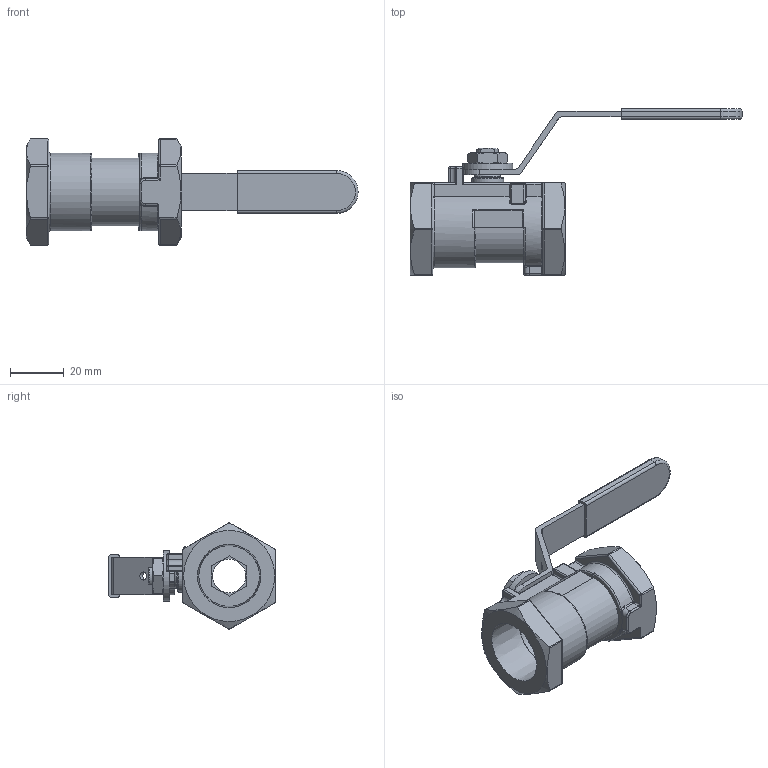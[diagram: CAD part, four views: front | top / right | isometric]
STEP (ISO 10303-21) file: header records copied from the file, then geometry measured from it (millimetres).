
FILE_DESCRIPTION((''),'2;1');
FILE_NAME('F:\Drawings\OneDrive - Avco Valve\Derek\100 Series\Machine Drawings\3D Insertables\100 Series\100-SE-075-LH.stp','2022-10-07T09:21:39',('dKouns'),(''),'Autodesk Inventor 2012','Autodesk Inventor 2012','');
FILE_SCHEMA(('AUTOMOTIVE_DESIGN { 1 0 10303 214 1 1 1 1 }'));
Length unit declared in the file: millimetre
Products named in the file (6): 100-SE-075-LH; 100-SE-075; 100-075-HANDLE; Hex Jam Nut - Metric M8 x 1.25; Plain Washer (Metric) 8 N; 100-038-SLEEVE
Assembly tree (5 placements, depth 2):
  100-SE-075-LH
    100-SE-075
    100-075-HANDLE
    Hex Jam Nut - Metric M8 x 1.25
    Plain Washer (Metric) 8 N
    100-038-SLEEVE
Bounding box: 124 x 62.25 x 39.68 mm (x, y, z)
Volume: 35015.3 mm3; surface area: 20246.7 mm2
Topology: 5 solids, 5 shells, 563 faces, 1446 edges, 923 vertices
Faces by surface type: plane 221, bspline 161, cylinder 111, torus 27, sphere 23, cone 20
Full cylindrical faces by diameter (mm): 3 x1, 6.647 x1, 8.9 x1, 9.5 x1, 12 x1, 12.5 x1, 18.8 x1, 22.631 x2
Entity records: 18800 total; most frequent: CARTESIAN_POINT 6115, ORIENTED_EDGE 2826, DIRECTION 2113, EDGE_CURVE 1413, VERTEX_POINT 913, VECTOR 743, LINE 743, AXIS2_PLACEMENT_3D 685
